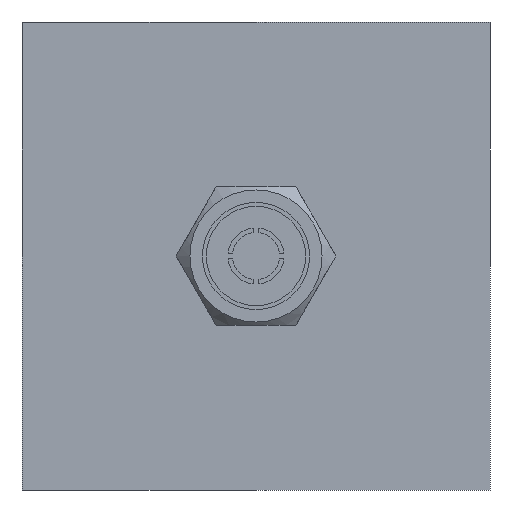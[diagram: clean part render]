
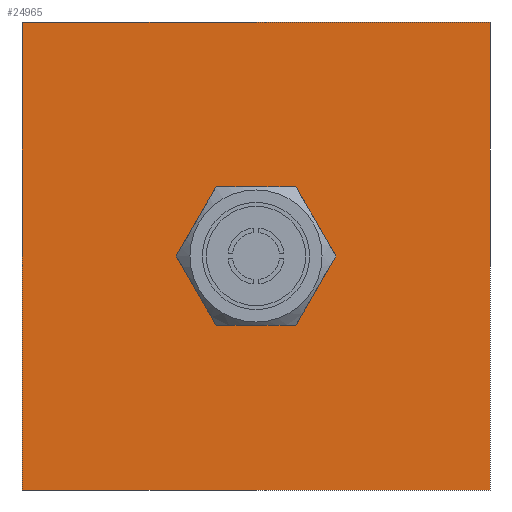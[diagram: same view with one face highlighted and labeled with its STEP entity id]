
A CAD part, front view. The second image highlights one B-rep face of the part: STEP entity #24965.
In plain terms, the highlighted planar face has unit normal (0, -1, 0).
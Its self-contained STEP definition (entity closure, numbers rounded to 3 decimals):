
#2193=LINE('',#36803,#4387);
#2196=LINE('',#36809,#4390);
#2199=LINE('',#36817,#4393);
#2201=LINE('',#36822,#4395);
#4387=VECTOR('',#30922,1000.);
#4390=VECTOR('',#30927,1000.);
#4393=VECTOR('',#30934,1000.);
#4395=VECTOR('',#30940,1000.);
#4902=CIRCLE('',#26267,9.855);
#5628=PLANE('',#26266);
#10875=ORIENTED_EDGE('',*,*,#14010,.T.);
#10876=ORIENTED_EDGE('',*,*,#13999,.T.);
#10877=ORIENTED_EDGE('',*,*,#14002,.T.);
#10878=ORIENTED_EDGE('',*,*,#14006,.T.);
#10879=ORIENTED_EDGE('',*,*,#14009,.T.);
#13999=EDGE_CURVE('',#15956,#15958,#2193,.T.);
#14002=EDGE_CURVE('',#15958,#15960,#2196,.T.);
#14006=EDGE_CURVE('',#15960,#15963,#2199,.T.);
#14009=EDGE_CURVE('',#15963,#15956,#2201,.T.);
#14010=EDGE_CURVE('',#15965,#15965,#4902,.F.);
#15956=VERTEX_POINT('',#36798);
#15958=VERTEX_POINT('',#36802);
#15960=VERTEX_POINT('',#36808);
#15963=VERTEX_POINT('',#36816);
#15965=VERTEX_POINT('',#36825);
#17101=EDGE_LOOP('',(#10875));
#17102=EDGE_LOOP('',(#10876,#10877,#10878,#10879));
#18225=FACE_BOUND('',#17101,.T.);
#18226=FACE_BOUND('',#17102,.T.);
#24965=ADVANCED_FACE('',(#18225,#18226),#5628,.T.);
#26266=AXIS2_PLACEMENT_3D('',#36823,#30941,#30942);
#26267=AXIS2_PLACEMENT_3D('',#36824,#30943,#30944);
#30922=DIRECTION('',(0.,0.,-1.));
#30927=DIRECTION('',(1.,0.,0.));
#30934=DIRECTION('',(0.,0.,1.));
#30940=DIRECTION('',(-1.,0.,0.));
#30941=DIRECTION('',(0.,-1.,0.));
#30942=DIRECTION('',(0.,0.,-1.));
#30943=DIRECTION('',(0.,-1.,0.));
#30944=DIRECTION('',(0.,0.,-1.));
#36798=CARTESIAN_POINT('',(-34.925,0.,34.925));
#36802=CARTESIAN_POINT('',(-34.925,0.,-34.925));
#36803=CARTESIAN_POINT('',(-34.925,0.,34.925));
#36808=CARTESIAN_POINT('',(34.925,0.,-34.925));
#36809=CARTESIAN_POINT('',(-34.925,0.,-34.925));
#36816=CARTESIAN_POINT('',(34.925,0.,34.925));
#36817=CARTESIAN_POINT('',(34.925,0.,-34.925));
#36822=CARTESIAN_POINT('',(34.925,0.,34.925));
#36823=CARTESIAN_POINT('',(0.,0.,0.));
#36824=CARTESIAN_POINT('',(0.,0.,0.));
#36825=CARTESIAN_POINT('',(0.,0.,-9.855));
